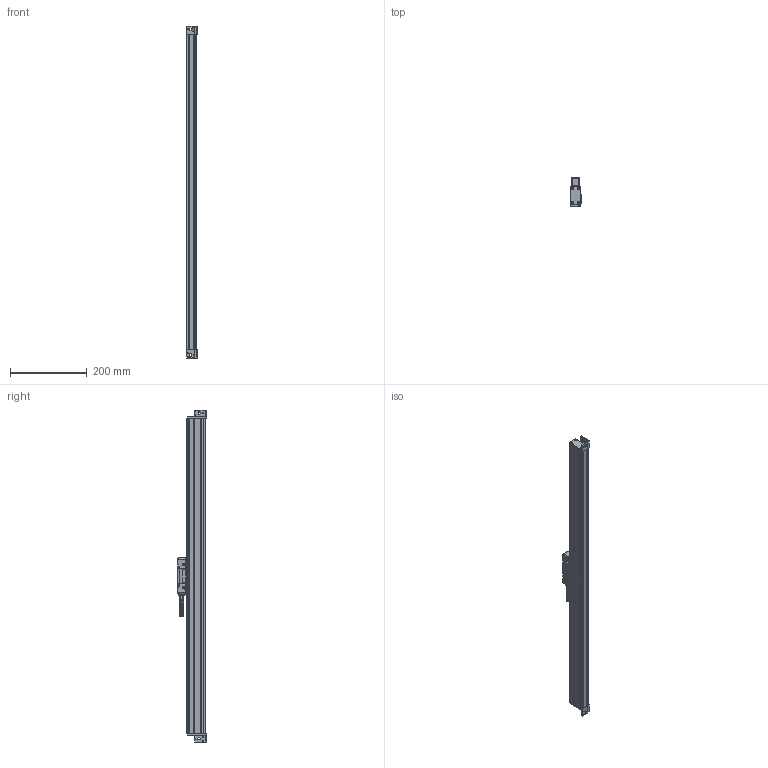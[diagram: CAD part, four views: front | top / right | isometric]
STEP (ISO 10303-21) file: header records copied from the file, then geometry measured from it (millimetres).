
FILE_DESCRIPTION (( 'STEP AP214' ), '1' );
FILE_NAME ('MLC310x0700.STEP', '2021-05-08T11:51:11', ( '' ), ( '' ), 'SwSTEP 2.0', 'SolidWorks 2014', '' );
FILE_SCHEMA (( 'AUTOMOTIVE_DESIGN' ));
Length unit declared in the file: millimetre
Products named in the file (1): MLC310x0700
Bounding box: 27 x 75.15 x 864 mm (x, y, z)
Surface area: 157004.8 mm2 (no closed solid volume)
Topology: 0 solids, 22 shells, 426 faces, 1386 edges, 975 vertices
Faces by surface type: plane 172, cylinder 147, cone 77, bspline 24, torus 6
Entity records: 30109 total; most frequent: CARTESIAN_POINT 13596, DIRECTION 2417, ORIENTED_EDGE 2204, EDGE_CURVE 1382, VERTEX_POINT 975, AXIS2_PLACEMENT_3D 837, LINE 743, VECTOR 743
